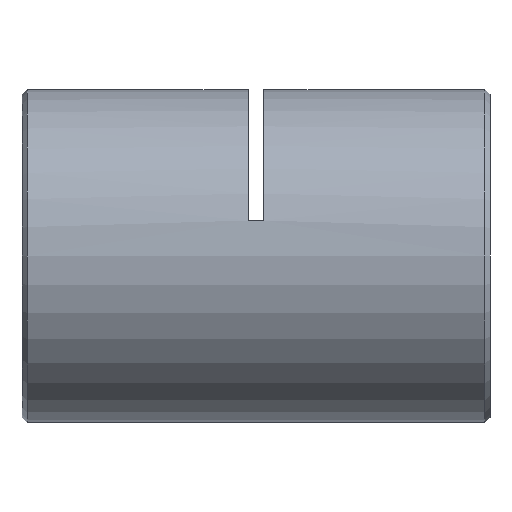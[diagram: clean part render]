
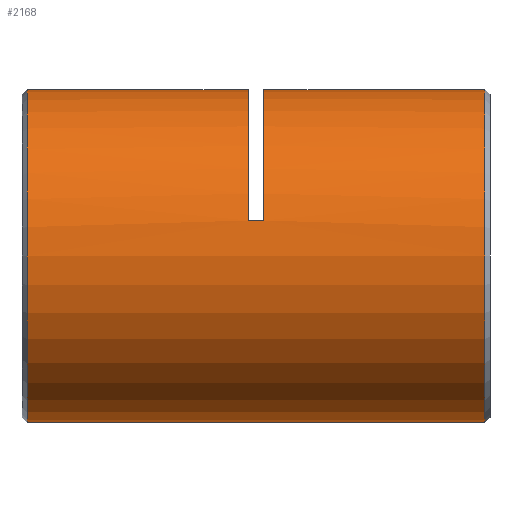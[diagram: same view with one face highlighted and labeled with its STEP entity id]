
A CAD part, left-side view. The second image highlights one B-rep face of the part: STEP entity #2168.
In plain terms, the highlighted cylindrical face has radius 16 mm (diameter 32 mm), a partial arc.
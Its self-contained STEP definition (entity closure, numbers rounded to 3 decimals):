
#178 = DIRECTION ( 'NONE',  ( 0., 0., 1. ) ) ;
#219 = DIRECTION ( 'NONE',  ( 0., 1., 0. ) ) ;
#239 = FACE_OUTER_BOUND ( 'NONE', #4581, .T. ) ;
#274 = CARTESIAN_POINT ( 'NONE',  ( -15.632, 22.75, 3.413 ) ) ;
#285 = EDGE_CURVE ( 'NONE', #946, #684, #2634, .T. ) ;
#448 = CIRCLE ( 'NONE', #1888, 16. ) ;
#629 = CARTESIAN_POINT ( 'NONE',  ( 0., 0., 0. ) ) ;
#671 = AXIS2_PLACEMENT_3D ( 'NONE', #2986, #4520, #4973 ) ;
#684 = VERTEX_POINT ( 'NONE', #3683 ) ;
#744 = DIRECTION ( 'NONE',  ( 0., 0., 1. ) ) ;
#869 = ORIENTED_EDGE ( 'NONE', *, *, #4007, .T. ) ;
#886 = DIRECTION ( 'NONE',  ( 0., 1., 0. ) ) ;
#946 = VERTEX_POINT ( 'NONE', #2536 ) ;
#977 = EDGE_CURVE ( 'NONE', #1930, #5665, #3096, .T. ) ;
#1087 = LINE ( 'NONE', #1535, #5502 ) ;
#1371 = CARTESIAN_POINT ( 'NONE',  ( 0., 0.75, -16. ) ) ;
#1413 = VERTEX_POINT ( 'NONE', #3014 ) ;
#1495 = EDGE_CURVE ( 'NONE', #4628, #1413, #3892, .T. ) ;
#1535 = CARTESIAN_POINT ( 'NONE',  ( 0., 0., -16. ) ) ;
#1702 = AXIS2_PLACEMENT_3D ( 'NONE', #4555, #4201, #744 ) ;
#1798 = CARTESIAN_POINT ( 'NONE',  ( 0., 23.5, 0. ) ) ;
#1888 = AXIS2_PLACEMENT_3D ( 'NONE', #4825, #886, #4270 ) ;
#1930 = VERTEX_POINT ( 'NONE', #2654 ) ;
#2151 = DIRECTION ( 'NONE',  ( 0., 1., 0. ) ) ;
#2168 = ADVANCED_FACE ( 'NONE', ( #239 ), #4135, .T. ) ;
#2258 = ORIENTED_EDGE ( 'NONE', *, *, #5775, .F. ) ;
#2328 = CIRCLE ( 'NONE', #671, 16. ) ;
#2350 = CIRCLE ( 'NONE', #1702, 16. ) ;
#2376 = EDGE_CURVE ( 'NONE', #1413, #3307, #2328, .T. ) ;
#2399 = ORIENTED_EDGE ( 'NONE', *, *, #285, .T. ) ;
#2536 = CARTESIAN_POINT ( 'NONE',  ( 0., 0.75, 16. ) ) ;
#2596 = CIRCLE ( 'NONE', #3425, 16. ) ;
#2634 = LINE ( 'NONE', #6097, #5914 ) ;
#2654 = CARTESIAN_POINT ( 'NONE',  ( -15.632, 22., 3.413 ) ) ;
#2749 = DIRECTION ( 'NONE',  ( 0., 1., 0. ) ) ;
#2782 = VECTOR ( 'NONE', #5572, 1000. ) ;
#2929 = AXIS2_PLACEMENT_3D ( 'NONE', #629, #2151, #178 ) ;
#2933 = ORIENTED_EDGE ( 'NONE', *, *, #5910, .F. ) ;
#2986 = CARTESIAN_POINT ( 'NONE',  ( 0., 44.75, 0. ) ) ;
#3014 = CARTESIAN_POINT ( 'NONE',  ( 0., 44.75, 16. ) ) ;
#3096 = LINE ( 'NONE', #274, #2782 ) ;
#3307 = VERTEX_POINT ( 'NONE', #5227 ) ;
#3425 = AXIS2_PLACEMENT_3D ( 'NONE', #1798, #2749, #3430 ) ;
#3430 = DIRECTION ( 'NONE',  ( 0., 0., 1. ) ) ;
#3502 = CARTESIAN_POINT ( 'NONE',  ( 0., 23.5, 16. ) ) ;
#3538 = DIRECTION ( 'NONE',  ( 0., 1., 0. ) ) ;
#3683 = CARTESIAN_POINT ( 'NONE',  ( 0., 22., 16. ) ) ;
#3745 = ORIENTED_EDGE ( 'NONE', *, *, #6112, .T. ) ;
#3892 = LINE ( 'NONE', #5878, #5341 ) ;
#3985 = DIRECTION ( 'NONE',  ( 0., 1., 0. ) ) ;
#4007 = EDGE_CURVE ( 'NONE', #5818, #946, #2350, .T. ) ;
#4135 = CYLINDRICAL_SURFACE ( 'NONE', #2929, 16. ) ;
#4201 = DIRECTION ( 'NONE',  ( 0., 1., 0. ) ) ;
#4270 = DIRECTION ( 'NONE',  ( 0., 0., 1. ) ) ;
#4520 = DIRECTION ( 'NONE',  ( 0., -1., 0. ) ) ;
#4555 = CARTESIAN_POINT ( 'NONE',  ( 0., 0.75, 0. ) ) ;
#4557 = ORIENTED_EDGE ( 'NONE', *, *, #1495, .T. ) ;
#4581 = EDGE_LOOP ( 'NONE', ( #2933, #869, #2399, #2258, #5580, #3745, #4557, #4724 ) ) ;
#4628 = VERTEX_POINT ( 'NONE', #3502 ) ;
#4724 = ORIENTED_EDGE ( 'NONE', *, *, #2376, .T. ) ;
#4825 = CARTESIAN_POINT ( 'NONE',  ( 0., 22., 0. ) ) ;
#4973 = DIRECTION ( 'NONE',  ( 0., 0., -1. ) ) ;
#5227 = CARTESIAN_POINT ( 'NONE',  ( 0., 44.75, -16. ) ) ;
#5341 = VECTOR ( 'NONE', #3538, 1000. ) ;
#5502 = VECTOR ( 'NONE', #3985, 1000. ) ;
#5572 = DIRECTION ( 'NONE',  ( 0., 1., 0. ) ) ;
#5580 = ORIENTED_EDGE ( 'NONE', *, *, #977, .T. ) ;
#5665 = VERTEX_POINT ( 'NONE', #6032 ) ;
#5775 = EDGE_CURVE ( 'NONE', #1930, #684, #448, .T. ) ;
#5818 = VERTEX_POINT ( 'NONE', #1371 ) ;
#5878 = CARTESIAN_POINT ( 'NONE',  ( 0., 0., 16. ) ) ;
#5910 = EDGE_CURVE ( 'NONE', #5818, #3307, #1087, .T. ) ;
#5914 = VECTOR ( 'NONE', #219, 1000. ) ;
#6032 = CARTESIAN_POINT ( 'NONE',  ( -15.632, 23.5, 3.413 ) ) ;
#6097 = CARTESIAN_POINT ( 'NONE',  ( 0., 0., 16. ) ) ;
#6112 = EDGE_CURVE ( 'NONE', #5665, #4628, #2596, .T. ) ;
